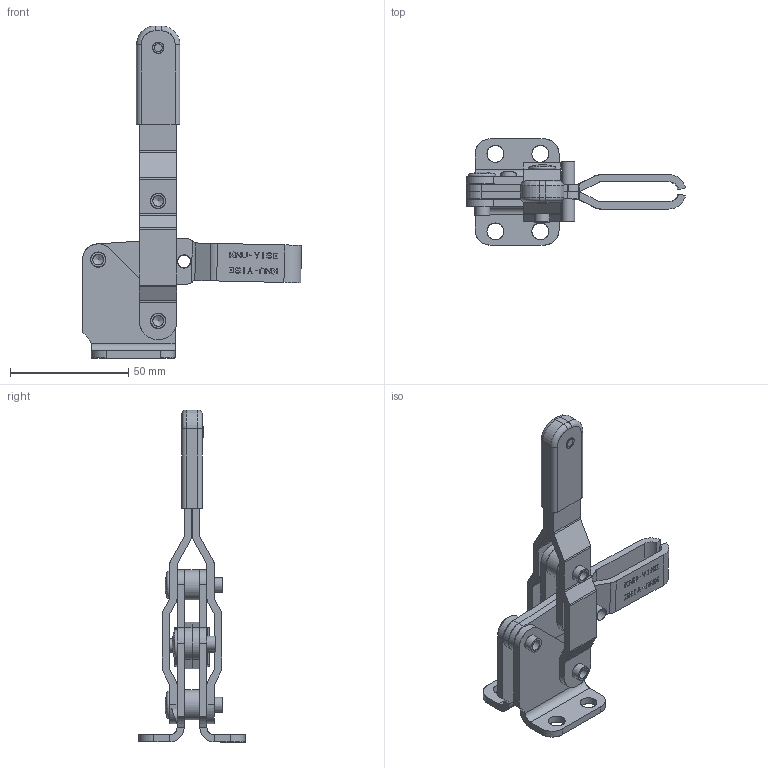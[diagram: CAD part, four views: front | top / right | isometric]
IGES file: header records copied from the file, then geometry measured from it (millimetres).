
Global section: file name: E:\v-375.igs; native system: Unigraphics Version X V1.0; preprocessor: Unigraphics NX IGES V1.0; date: 20040106.082117; units: inch
Bounding box: 92.81 x 45.01 x 140.65 mm (x, y, z)
Surface area: 74883.6 mm2 (no closed solid volume)
Topology: 0 solids, 0 shells, 1712 faces, 15466 edges, 15352 vertices
Faces by surface type: extrusion 1408, revolution 304
